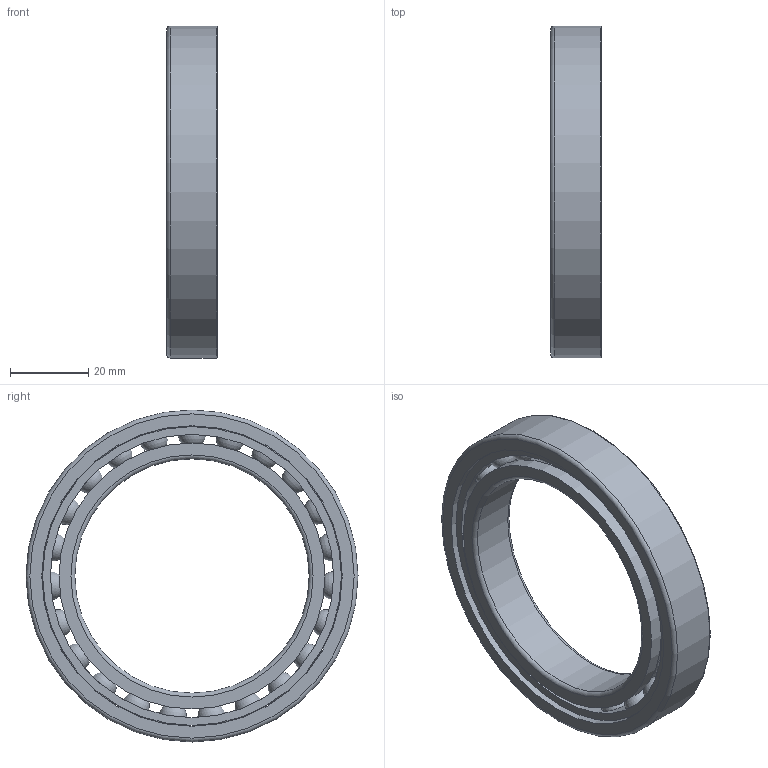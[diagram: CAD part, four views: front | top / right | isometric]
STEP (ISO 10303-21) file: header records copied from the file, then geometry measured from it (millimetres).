
FILE_DESCRIPTION(/* description */ (''),/* implementation_level */ '2;1');
FILE_NAME(/* name */ 'SM_61912_TA.step',/* time_stamp */ '2013-03-11T11:35:48+01:00',/* author */ ('Marian'),/* organization */ ('GMN'),/* preprocessor_version */ 'ST-DEVELOPER v11',/* originating_system */ 'SIEMENS UGS NX 6.0',/* authorisation */ '');
FILE_SCHEMA (('CONFIG_CONTROL_DESIGN'));
Length unit declared in the file: millimetre
Products named in the file (1): SM_61912_TA
Bounding box: 13 x 85 x 85 mm (x, y, z)
Volume: 26939.7 mm3; surface area: 23631.1 mm2
Topology: 26 solids, 26 shells, 66 faces, 172 edges, 112 vertices
Faces by surface type: cylinder 30, sphere 23, torus 6, plane 6, cone 1
Full cylindrical faces by diameter (mm): 7.344 x23, 60 x1, 68.1 x2, 72.484 x1, 76.5 x1, 76.9 x1, 85 x1
Entity records: 4040 total; most frequent: CARTESIAN_POINT 2844, DIRECTION 174, FACE_BOUND 155, EDGE_LOOP 132, ORIENTED_EDGE 132, VERTEX_POINT 89, AXIS2_PLACEMENT_3D 87, EDGE_CURVE 66
